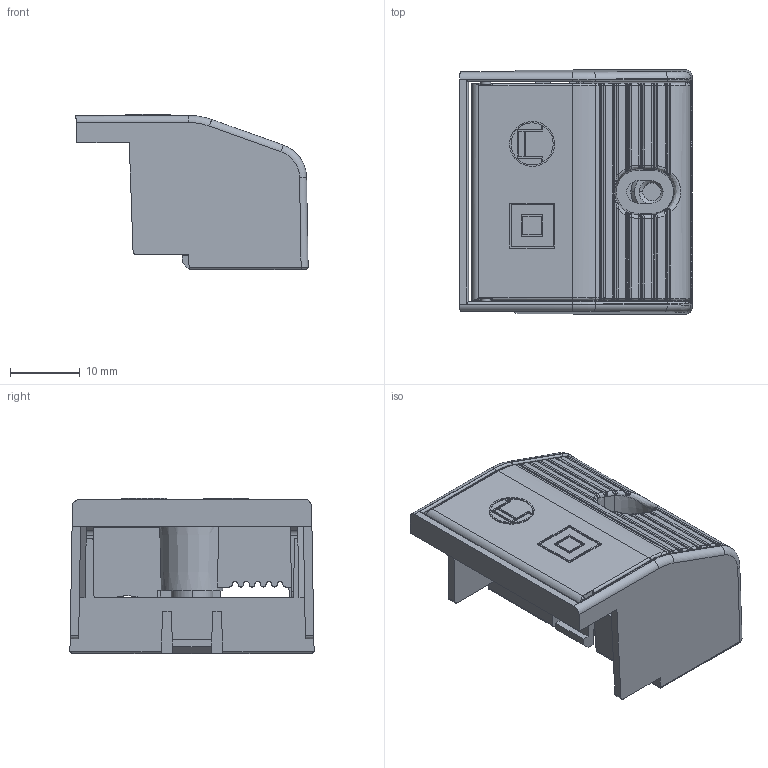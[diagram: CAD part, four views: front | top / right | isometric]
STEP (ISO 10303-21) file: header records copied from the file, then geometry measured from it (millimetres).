
FILE_DESCRIPTION((''),'2;1');
FILE_NAME('SIDE-A_ASM','2025-03-15T',('Administrator'),(''),'PRO/ENGINEER BY PARAMETRIC TECHNOLOGY CORPORATION, 2010280','PRO/ENGINEER BY PARAMETRIC TECHNOLOGY CORPORATION, 2010280','');
FILE_SCHEMA(('CONFIG_CONTROL_DESIGN'));
Length unit declared in the file: millimetre
Products named in the file (5): CE-1__5_1; CG__ASM_1_ASM_1_ASM_ASM; SIDE__ASM_1_ASM_1_ASM_ASM; CE-TOP_2; SIDE-A_ASM
Assembly tree (4 placements, depth 4):
  SIDE-A_ASM
    SIDE__ASM_1_ASM_1_ASM_ASM
      CG__ASM_1_ASM_1_ASM_ASM
        CE-1__5_1
    CE-TOP_2
Bounding box: 33.18 x 34.89 x 22.15 mm (x, y, z)
Volume: 6289.6 mm3; surface area: 9844.5 mm2
Topology: 2 solids, 2 shells, 582 faces, 1594 edges, 1019 vertices
Faces by surface type: plane 242, cylinder 200, bspline 92, torus 16, cone 14, sphere 12, extrusion 6
Entity records: 24662 total; most frequent: CARTESIAN_POINT 11077, ORIENTED_EDGE 3164, DIRECTION 2280, EDGE_CURVE 1582, VERTEX_POINT 1019, VECTOR 842, LINE 836, AXIS2_PLACEMENT_3D 719
